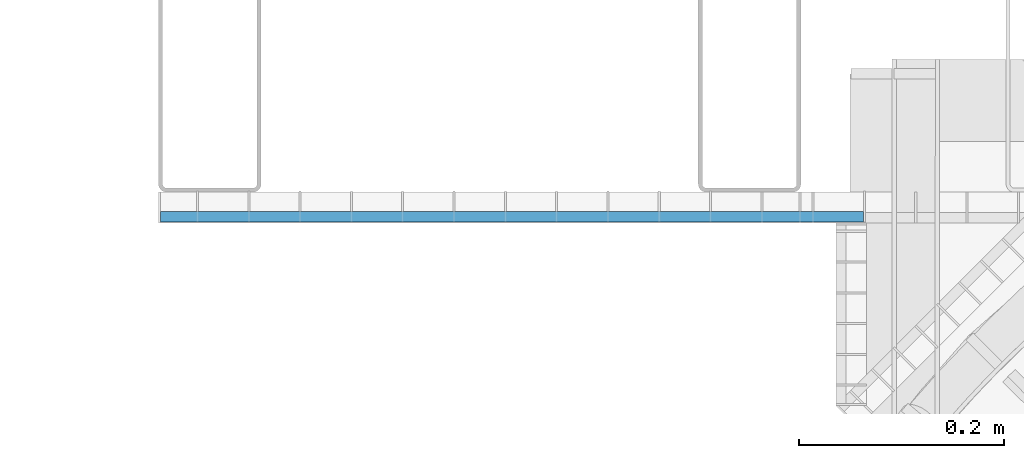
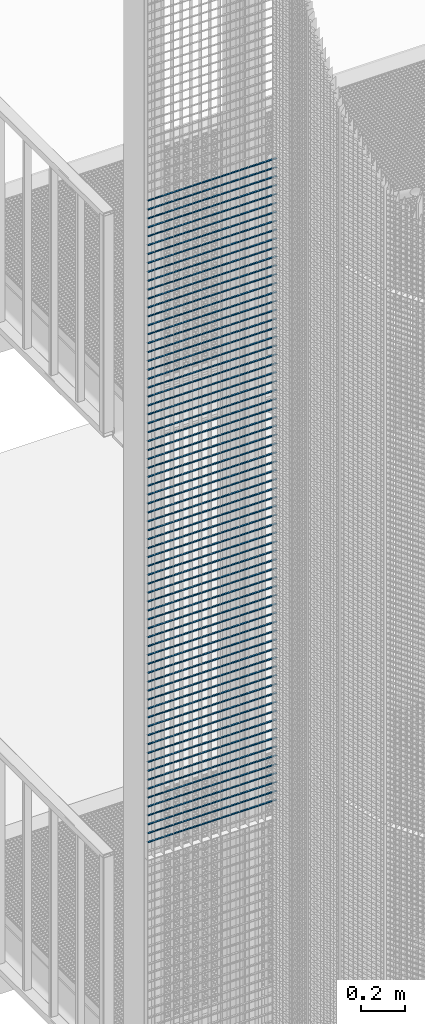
# One storey, part 207 of 1148: 73 beams, 1 element without a shape of its own.
"""IFC2X3 building model written with IfcOpenShell, lengths in millimetres."""

from ifc_helpers import new_model, si_unit, frame, origin_with_axes, origin_2d_with_axis, place, context, subcontext, project, spatial, rectangle, extrude, material, type_object, element, aggregate, save


model = new_model("IFC2X3")

# Units and contexts
model_context = context("Model", 3, precision=1e-05, world=origin_with_axes())
body_context = subcontext(model_context, "Body", "Model", "MODEL_VIEW")
ifc_project = project(units=[si_unit("LENGTHUNIT", "METRE", prefix="MILLI"), si_unit("AREAUNIT", "SQUARE_METRE"), si_unit("VOLUMEUNIT", "CUBIC_METRE"), si_unit("MASSUNIT", "GRAM", prefix="KILO"), si_unit("TIMEUNIT", "SECOND"), si_unit("PLANEANGLEUNIT", "RADIAN"), si_unit("SOLIDANGLEUNIT", "STERADIAN"), si_unit("THERMODYNAMICTEMPERATUREUNIT", "DEGREE_CELSIUS"), si_unit("LUMINOUSINTENSITYUNIT", "LUMEN")], contexts=[model_context])

# Site, building, storey
site_placement = place(None, origin_with_axes())
site = spatial("IfcSite", under=ifc_project, at=site_placement, Name="Undefined", CompositionType="ELEMENT")
building_placement = place(site_placement, origin_with_axes())
building = spatial("IfcBuilding", under=site, at=building_placement, Name="Undefined", CompositionType="ELEMENT")
storey_placement = place(building_placement, origin_with_axes())
storey = spatial("IfcBuildingStorey", under=building, at=storey_placement, Name="Undefined", CompositionType="ELEMENT", Elevation=0.0)

# Assembly, beams
assembly_placement = place(storey_placement, origin_with_axes())
assembly = element("IfcElementAssembly", 1, at=assembly_placement, inside=storey, Name="BORDURE", AssemblyPlace="NOTDEFINED", PredefinedType="NOTDEFINED")
ifc_material = material(Name="STEEL/S235JR")
beam_type = type_object("IfcBeamType", Name="PL2*10", PredefinedType="NOTDEFINED")
beam_1_placement = place(assembly_placement, frame((-1547.92041016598, 875.994689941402, 14889.998), z_axis=(0.0, -1.0, 0.0), x_axis=(1.0, 0.0, 0.0)))
beam_1 = element("IfcBeam", 2, at=beam_1_placement, type_object=beam_type, material=ifc_material, Name="ENTRETOISE", context=body_context, shape_type="SweptSolid", body=[
    extrude(rectangle(XDim=2.0, YDim=10.0, at=origin_2d_with_axis()), frame((685.0, 0.0, 0.0), z_axis=(-1.0, 0.0, 0.0), x_axis=(0.0, -1.0, 0.0)), (0.0, 0.0, 1.0), 685.0),
])
beam_2_placement = place(assembly_placement, frame((-1547.92041016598, 875.994689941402, 14839.998), z_axis=(0.0, -1.0, 0.0), x_axis=(1.0, 0.0, 0.0)))
beam_2 = element("IfcBeam", 3, at=beam_2_placement, type_object=beam_type, material=ifc_material, Name="ENTRETOISE", context=body_context, shape_type="SweptSolid", body=[
    extrude(rectangle(XDim=2.0, YDim=10.0, at=origin_2d_with_axis()), frame((685.0, 0.0, 0.0), z_axis=(-1.0, 0.0, 0.0), x_axis=(0.0, -1.0, 0.0)), (0.0, 0.0, 1.0), 685.0),
])
beam_3_placement = place(assembly_placement, frame((-1547.92041016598, 875.994689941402, 14789.998), z_axis=(0.0, -1.0, 0.0), x_axis=(1.0, 0.0, 0.0)))
beam_3 = element("IfcBeam", 4, at=beam_3_placement, type_object=beam_type, material=ifc_material, Name="ENTRETOISE", context=body_context, shape_type="SweptSolid", body=[
    extrude(rectangle(XDim=2.0, YDim=10.0, at=origin_2d_with_axis()), frame((685.0, 0.0, 0.0), z_axis=(-1.0, 0.0, 0.0), x_axis=(0.0, -1.0, 0.0)), (0.0, 0.0, 1.0), 685.0),
])
beam_4_placement = place(assembly_placement, frame((-1547.92041016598, 875.994689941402, 14739.998), z_axis=(0.0, -1.0, 0.0), x_axis=(1.0, 0.0, 0.0)))
beam_4 = element("IfcBeam", 5, at=beam_4_placement, type_object=beam_type, material=ifc_material, Name="ENTRETOISE", context=body_context, shape_type="SweptSolid", body=[
    extrude(rectangle(XDim=2.0, YDim=10.0, at=origin_2d_with_axis()), frame((685.0, 0.0, 0.0), z_axis=(-1.0, 0.0, 0.0), x_axis=(0.0, -1.0, 0.0)), (0.0, 0.0, 1.0), 685.0),
])
beam_5_placement = place(assembly_placement, frame((-1547.92041016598, 875.994689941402, 14689.998), z_axis=(0.0, -1.0, 0.0), x_axis=(1.0, 0.0, 0.0)))
beam_5 = element("IfcBeam", 6, at=beam_5_placement, type_object=beam_type, material=ifc_material, Name="ENTRETOISE", context=body_context, shape_type="SweptSolid", body=[
    extrude(rectangle(XDim=2.0, YDim=10.0, at=origin_2d_with_axis()), frame((685.0, 0.0, 0.0), z_axis=(-1.0, 0.0, 0.0), x_axis=(0.0, -1.0, 0.0)), (0.0, 0.0, 1.0), 685.0),
])
beam_6_placement = place(assembly_placement, frame((-1547.92041016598, 875.994689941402, 14639.998), z_axis=(0.0, -1.0, 0.0), x_axis=(1.0, 0.0, 0.0)))
beam_6 = element("IfcBeam", 7, at=beam_6_placement, type_object=beam_type, material=ifc_material, Name="ENTRETOISE", context=body_context, shape_type="SweptSolid", body=[
    extrude(rectangle(XDim=2.0, YDim=10.0, at=origin_2d_with_axis()), frame((685.0, 0.0, 0.0), z_axis=(-1.0, 0.0, 0.0), x_axis=(0.0, -1.0, 0.0)), (0.0, 0.0, 1.0), 685.0),
])
beam_7_placement = place(assembly_placement, frame((-1547.92041016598, 875.994689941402, 14589.998), z_axis=(0.0, -1.0, 0.0), x_axis=(1.0, 0.0, 0.0)))
beam_7 = element("IfcBeam", 8, at=beam_7_placement, type_object=beam_type, material=ifc_material, Name="ENTRETOISE", context=body_context, shape_type="SweptSolid", body=[
    extrude(rectangle(XDim=2.0, YDim=10.0, at=origin_2d_with_axis()), frame((685.0, 0.0, 0.0), z_axis=(-1.0, 0.0, 0.0), x_axis=(0.0, -1.0, 0.0)), (0.0, 0.0, 1.0), 685.0),
])
beam_8_placement = place(assembly_placement, frame((-1547.92041016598, 875.994689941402, 14539.998), z_axis=(0.0, -1.0, 0.0), x_axis=(1.0, 0.0, 0.0)))
beam_8 = element("IfcBeam", 9, at=beam_8_placement, type_object=beam_type, material=ifc_material, Name="ENTRETOISE", context=body_context, shape_type="SweptSolid", body=[
    extrude(rectangle(XDim=2.0, YDim=10.0, at=origin_2d_with_axis()), frame((685.0, 0.0, 0.0), z_axis=(-1.0, 0.0, 0.0), x_axis=(0.0, -1.0, 0.0)), (0.0, 0.0, 1.0), 685.0),
])
beam_9_placement = place(assembly_placement, frame((-1547.92041016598, 875.994689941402, 14489.998), z_axis=(0.0, -1.0, 0.0), x_axis=(1.0, 0.0, 0.0)))
beam_9 = element("IfcBeam", 10, at=beam_9_placement, type_object=beam_type, material=ifc_material, Name="ENTRETOISE", context=body_context, shape_type="SweptSolid", body=[
    extrude(rectangle(XDim=2.0, YDim=10.0, at=origin_2d_with_axis()), frame((685.0, 0.0, 0.0), z_axis=(-1.0, 0.0, 0.0), x_axis=(0.0, -1.0, 0.0)), (0.0, 0.0, 1.0), 685.0),
])
beam_10_placement = place(assembly_placement, frame((-1547.92041016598, 875.994689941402, 14439.998), z_axis=(0.0, -1.0, 0.0), x_axis=(1.0, 0.0, 0.0)))
beam_10 = element("IfcBeam", 11, at=beam_10_placement, type_object=beam_type, material=ifc_material, Name="ENTRETOISE", context=body_context, shape_type="SweptSolid", body=[
    extrude(rectangle(XDim=2.0, YDim=10.0, at=origin_2d_with_axis()), frame((685.0, 0.0, 0.0), z_axis=(-1.0, 0.0, 0.0), x_axis=(0.0, -1.0, 0.0)), (0.0, 0.0, 1.0), 685.0),
])
beam_11_placement = place(assembly_placement, frame((-1547.92041016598, 875.994689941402, 14389.998), z_axis=(0.0, -1.0, 0.0), x_axis=(1.0, 0.0, 0.0)))
beam_11 = element("IfcBeam", 12, at=beam_11_placement, type_object=beam_type, material=ifc_material, Name="ENTRETOISE", context=body_context, shape_type="SweptSolid", body=[
    extrude(rectangle(XDim=2.0, YDim=10.0, at=origin_2d_with_axis()), frame((685.0, 0.0, 0.0), z_axis=(-1.0, 0.0, 0.0), x_axis=(0.0, -1.0, 0.0)), (0.0, 0.0, 1.0), 685.0),
])
beam_12_placement = place(assembly_placement, frame((-1547.92041016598, 875.994689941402, 14339.998), z_axis=(0.0, -1.0, 0.0), x_axis=(1.0, 0.0, 0.0)))
beam_12 = element("IfcBeam", 13, at=beam_12_placement, type_object=beam_type, material=ifc_material, Name="ENTRETOISE", context=body_context, shape_type="SweptSolid", body=[
    extrude(rectangle(XDim=2.0, YDim=10.0, at=origin_2d_with_axis()), frame((685.0, 0.0, 0.0), z_axis=(-1.0, 0.0, 0.0), x_axis=(0.0, -1.0, 0.0)), (0.0, 0.0, 1.0), 685.0),
])
beam_13_placement = place(assembly_placement, frame((-1547.92041016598, 875.994689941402, 14289.998), z_axis=(0.0, -1.0, 0.0), x_axis=(1.0, 0.0, 0.0)))
beam_13 = element("IfcBeam", 14, at=beam_13_placement, type_object=beam_type, material=ifc_material, Name="ENTRETOISE", context=body_context, shape_type="SweptSolid", body=[
    extrude(rectangle(XDim=2.0, YDim=10.0, at=origin_2d_with_axis()), frame((685.0, 0.0, 0.0), z_axis=(-1.0, 0.0, 0.0), x_axis=(0.0, -1.0, 0.0)), (0.0, 0.0, 1.0), 685.0),
])
beam_14_placement = place(assembly_placement, frame((-1547.92041016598, 875.994689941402, 14239.998), z_axis=(0.0, -1.0, 0.0), x_axis=(1.0, 0.0, 0.0)))
beam_14 = element("IfcBeam", 15, at=beam_14_placement, type_object=beam_type, material=ifc_material, Name="ENTRETOISE", context=body_context, shape_type="SweptSolid", body=[
    extrude(rectangle(XDim=2.0, YDim=10.0, at=origin_2d_with_axis()), frame((685.0, 0.0, 0.0), z_axis=(-1.0, 0.0, 0.0), x_axis=(0.0, -1.0, 0.0)), (0.0, 0.0, 1.0), 685.0),
])
beam_15_placement = place(assembly_placement, frame((-1547.92041016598, 875.994689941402, 14189.998), z_axis=(0.0, -1.0, 0.0), x_axis=(1.0, 0.0, 0.0)))
beam_15 = element("IfcBeam", 16, at=beam_15_placement, type_object=beam_type, material=ifc_material, Name="ENTRETOISE", context=body_context, shape_type="SweptSolid", body=[
    extrude(rectangle(XDim=2.0, YDim=10.0, at=origin_2d_with_axis()), frame((685.0, 0.0, 0.0), z_axis=(-1.0, 0.0, 0.0), x_axis=(0.0, -1.0, 0.0)), (0.0, 0.0, 1.0), 685.0),
])
beam_16_placement = place(assembly_placement, frame((-1547.92041016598, 875.994689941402, 14139.998), z_axis=(0.0, -1.0, 0.0), x_axis=(1.0, 0.0, 0.0)))
beam_16 = element("IfcBeam", 17, at=beam_16_placement, type_object=beam_type, material=ifc_material, Name="ENTRETOISE", context=body_context, shape_type="SweptSolid", body=[
    extrude(rectangle(XDim=2.0, YDim=10.0, at=origin_2d_with_axis()), frame((685.0, 0.0, 0.0), z_axis=(-1.0, 0.0, 0.0), x_axis=(0.0, -1.0, 0.0)), (0.0, 0.0, 1.0), 685.0),
])
beam_17_placement = place(assembly_placement, frame((-1547.92041016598, 875.994689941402, 14089.998), z_axis=(0.0, -1.0, 0.0), x_axis=(1.0, 0.0, 0.0)))
beam_17 = element("IfcBeam", 18, at=beam_17_placement, type_object=beam_type, material=ifc_material, Name="ENTRETOISE", context=body_context, shape_type="SweptSolid", body=[
    extrude(rectangle(XDim=2.0, YDim=10.0, at=origin_2d_with_axis()), frame((685.0, 0.0, 0.0), z_axis=(-1.0, 0.0, 0.0), x_axis=(0.0, -1.0, 0.0)), (0.0, 0.0, 1.0), 685.0),
])
beam_18_placement = place(assembly_placement, frame((-1547.92041016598, 875.994689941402, 14039.998), z_axis=(0.0, -1.0, 0.0), x_axis=(1.0, 0.0, 0.0)))
beam_18 = element("IfcBeam", 19, at=beam_18_placement, type_object=beam_type, material=ifc_material, Name="ENTRETOISE", context=body_context, shape_type="SweptSolid", body=[
    extrude(rectangle(XDim=2.0, YDim=10.0, at=origin_2d_with_axis()), frame((685.0, 0.0, 0.0), z_axis=(-1.0, 0.0, 0.0), x_axis=(0.0, -1.0, 0.0)), (0.0, 0.0, 1.0), 685.0),
])
beam_19_placement = place(assembly_placement, frame((-1547.92041016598, 875.994689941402, 13989.998), z_axis=(0.0, -1.0, 0.0), x_axis=(1.0, 0.0, 0.0)))
beam_19 = element("IfcBeam", 20, at=beam_19_placement, type_object=beam_type, material=ifc_material, Name="ENTRETOISE", context=body_context, shape_type="SweptSolid", body=[
    extrude(rectangle(XDim=2.0, YDim=10.0, at=origin_2d_with_axis()), frame((685.0, 0.0, 0.0), z_axis=(-1.0, 0.0, 0.0), x_axis=(0.0, -1.0, 0.0)), (0.0, 0.0, 1.0), 685.0),
])
beam_20_placement = place(assembly_placement, frame((-1547.92041016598, 875.994689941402, 13939.998), z_axis=(0.0, -1.0, 0.0), x_axis=(1.0, 0.0, 0.0)))
beam_20 = element("IfcBeam", 21, at=beam_20_placement, type_object=beam_type, material=ifc_material, Name="ENTRETOISE", context=body_context, shape_type="SweptSolid", body=[
    extrude(rectangle(XDim=2.0, YDim=10.0, at=origin_2d_with_axis()), frame((685.0, 0.0, 0.0), z_axis=(-1.0, 0.0, 0.0), x_axis=(0.0, -1.0, 0.0)), (0.0, 0.0, 1.0), 685.0),
])
beam_21_placement = place(assembly_placement, frame((-1547.92041016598, 875.994689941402, 13889.998), z_axis=(0.0, -1.0, 0.0), x_axis=(1.0, 0.0, 0.0)))
beam_21 = element("IfcBeam", 22, at=beam_21_placement, type_object=beam_type, material=ifc_material, Name="ENTRETOISE", context=body_context, shape_type="SweptSolid", body=[
    extrude(rectangle(XDim=2.0, YDim=10.0, at=origin_2d_with_axis()), frame((685.0, 0.0, 0.0), z_axis=(-1.0, 0.0, 0.0), x_axis=(0.0, -1.0, 0.0)), (0.0, 0.0, 1.0), 685.0),
])
beam_22_placement = place(assembly_placement, frame((-1547.92041016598, 875.994689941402, 13839.998), z_axis=(0.0, -1.0, 0.0), x_axis=(1.0, 0.0, 0.0)))
beam_22 = element("IfcBeam", 23, at=beam_22_placement, type_object=beam_type, material=ifc_material, Name="ENTRETOISE", context=body_context, shape_type="SweptSolid", body=[
    extrude(rectangle(XDim=2.0, YDim=10.0, at=origin_2d_with_axis()), frame((685.0, 0.0, 0.0), z_axis=(-1.0, 0.0, 0.0), x_axis=(0.0, -1.0, 0.0)), (0.0, 0.0, 1.0), 685.0),
])
beam_23_placement = place(assembly_placement, frame((-1547.92041016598, 875.994689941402, 13789.998), z_axis=(0.0, -1.0, 0.0), x_axis=(1.0, 0.0, 0.0)))
beam_23 = element("IfcBeam", 24, at=beam_23_placement, type_object=beam_type, material=ifc_material, Name="ENTRETOISE", context=body_context, shape_type="SweptSolid", body=[
    extrude(rectangle(XDim=2.0, YDim=10.0, at=origin_2d_with_axis()), frame((685.0, 0.0, 0.0), z_axis=(-1.0, 0.0, 0.0), x_axis=(0.0, -1.0, 0.0)), (0.0, 0.0, 1.0), 685.0),
])
beam_24_placement = place(assembly_placement, frame((-1547.92041016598, 875.994689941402, 13739.998), z_axis=(0.0, -1.0, 0.0), x_axis=(1.0, 0.0, 0.0)))
beam_24 = element("IfcBeam", 25, at=beam_24_placement, type_object=beam_type, material=ifc_material, Name="ENTRETOISE", context=body_context, shape_type="SweptSolid", body=[
    extrude(rectangle(XDim=2.0, YDim=10.0, at=origin_2d_with_axis()), frame((685.0, 0.0, 0.0), z_axis=(-1.0, 0.0, 0.0), x_axis=(0.0, -1.0, 0.0)), (0.0, 0.0, 1.0), 685.0),
])
beam_25_placement = place(assembly_placement, frame((-1547.92041016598, 875.994689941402, 13689.998), z_axis=(0.0, -1.0, 0.0), x_axis=(1.0, 0.0, 0.0)))
beam_25 = element("IfcBeam", 26, at=beam_25_placement, type_object=beam_type, material=ifc_material, Name="ENTRETOISE", context=body_context, shape_type="SweptSolid", body=[
    extrude(rectangle(XDim=2.0, YDim=10.0, at=origin_2d_with_axis()), frame((685.0, 0.0, 0.0), z_axis=(-1.0, 0.0, 0.0), x_axis=(0.0, -1.0, 0.0)), (0.0, 0.0, 1.0), 685.0),
])
beam_26_placement = place(assembly_placement, frame((-1547.92041016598, 875.994689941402, 13639.998), z_axis=(0.0, -1.0, 0.0), x_axis=(1.0, 0.0, 0.0)))
beam_26 = element("IfcBeam", 27, at=beam_26_placement, type_object=beam_type, material=ifc_material, Name="ENTRETOISE", context=body_context, shape_type="SweptSolid", body=[
    extrude(rectangle(XDim=2.0, YDim=10.0, at=origin_2d_with_axis()), frame((685.0, 0.0, 0.0), z_axis=(-1.0, 0.0, 0.0), x_axis=(0.0, -1.0, 0.0)), (0.0, 0.0, 1.0), 685.0),
])
beam_27_placement = place(assembly_placement, frame((-1547.92041016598, 875.994689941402, 13589.998), z_axis=(0.0, -1.0, 0.0), x_axis=(1.0, 0.0, 0.0)))
beam_27 = element("IfcBeam", 28, at=beam_27_placement, type_object=beam_type, material=ifc_material, Name="ENTRETOISE", context=body_context, shape_type="SweptSolid", body=[
    extrude(rectangle(XDim=2.0, YDim=10.0, at=origin_2d_with_axis()), frame((685.0, 0.0, 0.0), z_axis=(-1.0, 0.0, 0.0), x_axis=(0.0, -1.0, 0.0)), (0.0, 0.0, 1.0), 685.0),
])
beam_28_placement = place(assembly_placement, frame((-1547.92041016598, 875.994689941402, 13539.998), z_axis=(0.0, -1.0, 0.0), x_axis=(1.0, 0.0, 0.0)))
beam_28 = element("IfcBeam", 29, at=beam_28_placement, type_object=beam_type, material=ifc_material, Name="ENTRETOISE", context=body_context, shape_type="SweptSolid", body=[
    extrude(rectangle(XDim=2.0, YDim=10.0, at=origin_2d_with_axis()), frame((685.0, 0.0, 0.0), z_axis=(-1.0, 0.0, 0.0), x_axis=(0.0, -1.0, 0.0)), (0.0, 0.0, 1.0), 685.0),
])
beam_29_placement = place(assembly_placement, frame((-1547.92041016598, 875.994689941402, 13489.998), z_axis=(0.0, -1.0, 0.0), x_axis=(1.0, 0.0, 0.0)))
beam_29 = element("IfcBeam", 30, at=beam_29_placement, type_object=beam_type, material=ifc_material, Name="ENTRETOISE", context=body_context, shape_type="SweptSolid", body=[
    extrude(rectangle(XDim=2.0, YDim=10.0, at=origin_2d_with_axis()), frame((685.0, 0.0, 0.0), z_axis=(-1.0, 0.0, 0.0), x_axis=(0.0, -1.0, 0.0)), (0.0, 0.0, 1.0), 685.0),
])
beam_30_placement = place(assembly_placement, frame((-1547.92041016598, 875.994689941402, 13439.998), z_axis=(0.0, -1.0, 0.0), x_axis=(1.0, 0.0, 0.0)))
beam_30 = element("IfcBeam", 31, at=beam_30_placement, type_object=beam_type, material=ifc_material, Name="ENTRETOISE", context=body_context, shape_type="SweptSolid", body=[
    extrude(rectangle(XDim=2.0, YDim=10.0, at=origin_2d_with_axis()), frame((685.0, 0.0, 0.0), z_axis=(-1.0, 0.0, 0.0), x_axis=(0.0, -1.0, 0.0)), (0.0, 0.0, 1.0), 685.0),
])
beam_31_placement = place(assembly_placement, frame((-1547.92041016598, 875.994689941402, 13389.998), z_axis=(0.0, -1.0, 0.0), x_axis=(1.0, 0.0, 0.0)))
beam_31 = element("IfcBeam", 32, at=beam_31_placement, type_object=beam_type, material=ifc_material, Name="ENTRETOISE", context=body_context, shape_type="SweptSolid", body=[
    extrude(rectangle(XDim=2.0, YDim=10.0, at=origin_2d_with_axis()), frame((685.0, 0.0, 0.0), z_axis=(-1.0, 0.0, 0.0), x_axis=(0.0, -1.0, 0.0)), (0.0, 0.0, 1.0), 685.0),
])
beam_32_placement = place(assembly_placement, frame((-1547.92041016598, 875.994689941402, 13339.998), z_axis=(0.0, -1.0, 0.0), x_axis=(1.0, 0.0, 0.0)))
beam_32 = element("IfcBeam", 33, at=beam_32_placement, type_object=beam_type, material=ifc_material, Name="ENTRETOISE", context=body_context, shape_type="SweptSolid", body=[
    extrude(rectangle(XDim=2.0, YDim=10.0, at=origin_2d_with_axis()), frame((685.0, 0.0, 0.0), z_axis=(-1.0, 0.0, 0.0), x_axis=(0.0, -1.0, 0.0)), (0.0, 0.0, 1.0), 685.0),
])
beam_33_placement = place(assembly_placement, frame((-1547.92041016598, 875.994689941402, 13289.998), z_axis=(0.0, -1.0, 0.0), x_axis=(1.0, 0.0, 0.0)))
beam_33 = element("IfcBeam", 34, at=beam_33_placement, type_object=beam_type, material=ifc_material, Name="ENTRETOISE", context=body_context, shape_type="SweptSolid", body=[
    extrude(rectangle(XDim=2.0, YDim=10.0, at=origin_2d_with_axis()), frame((685.0, 0.0, 0.0), z_axis=(-1.0, 0.0, 0.0), x_axis=(0.0, -1.0, 0.0)), (0.0, 0.0, 1.0), 685.0),
])
beam_34_placement = place(assembly_placement, frame((-1547.92041016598, 875.994689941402, 13239.998), z_axis=(0.0, -1.0, 0.0), x_axis=(1.0, 0.0, 0.0)))
beam_34 = element("IfcBeam", 35, at=beam_34_placement, type_object=beam_type, material=ifc_material, Name="ENTRETOISE", context=body_context, shape_type="SweptSolid", body=[
    extrude(rectangle(XDim=2.0, YDim=10.0, at=origin_2d_with_axis()), frame((685.0, 0.0, 0.0), z_axis=(-1.0, 0.0, 0.0), x_axis=(0.0, -1.0, 0.0)), (0.0, 0.0, 1.0), 685.0),
])
beam_35_placement = place(assembly_placement, frame((-1547.92041016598, 875.994689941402, 13189.998), z_axis=(0.0, -1.0, 0.0), x_axis=(1.0, 0.0, 0.0)))
beam_35 = element("IfcBeam", 36, at=beam_35_placement, type_object=beam_type, material=ifc_material, Name="ENTRETOISE", context=body_context, shape_type="SweptSolid", body=[
    extrude(rectangle(XDim=2.0, YDim=10.0, at=origin_2d_with_axis()), frame((685.0, 0.0, 0.0), z_axis=(-1.0, 0.0, 0.0), x_axis=(0.0, -1.0, 0.0)), (0.0, 0.0, 1.0), 685.0),
])
beam_36_placement = place(assembly_placement, frame((-1547.92041016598, 875.994689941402, 13139.998), z_axis=(0.0, -1.0, 0.0), x_axis=(1.0, 0.0, 0.0)))
beam_36 = element("IfcBeam", 37, at=beam_36_placement, type_object=beam_type, material=ifc_material, Name="ENTRETOISE", context=body_context, shape_type="SweptSolid", body=[
    extrude(rectangle(XDim=2.0, YDim=10.0, at=origin_2d_with_axis()), frame((685.0, 0.0, 0.0), z_axis=(-1.0, 0.0, 0.0), x_axis=(0.0, -1.0, 0.0)), (0.0, 0.0, 1.0), 685.0),
])
beam_37_placement = place(assembly_placement, frame((-1547.92041016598, 875.994689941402, 13089.998), z_axis=(0.0, -1.0, 0.0), x_axis=(1.0, 0.0, 0.0)))
beam_37 = element("IfcBeam", 38, at=beam_37_placement, type_object=beam_type, material=ifc_material, Name="ENTRETOISE", context=body_context, shape_type="SweptSolid", body=[
    extrude(rectangle(XDim=2.0, YDim=10.0, at=origin_2d_with_axis()), frame((685.0, 0.0, 0.0), z_axis=(-1.0, 0.0, 0.0), x_axis=(0.0, -1.0, 0.0)), (0.0, 0.0, 1.0), 685.0),
])
beam_38_placement = place(assembly_placement, frame((-1547.92041016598, 875.994689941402, 11939.998), z_axis=(0.0, -1.0, 0.0), x_axis=(1.0, 0.0, 0.0)))
beam_38 = element("IfcBeam", 39, at=beam_38_placement, type_object=beam_type, material=ifc_material, Name="ENTRETOISE", context=body_context, shape_type="SweptSolid", body=[
    extrude(rectangle(XDim=2.0, YDim=10.0, at=origin_2d_with_axis()), frame((685.0, 0.0, 0.0), z_axis=(-1.0, 0.0, 0.0), x_axis=(0.0, -1.0, 0.0)), (0.0, 0.0, 1.0), 685.0),
])
beam_39_placement = place(assembly_placement, frame((-1547.92041016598, 875.994689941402, 11989.998), z_axis=(0.0, -1.0, 0.0), x_axis=(1.0, 0.0, 0.0)))
beam_39 = element("IfcBeam", 40, at=beam_39_placement, type_object=beam_type, material=ifc_material, Name="ENTRETOISE", context=body_context, shape_type="SweptSolid", body=[
    extrude(rectangle(XDim=2.0, YDim=10.0, at=origin_2d_with_axis()), frame((685.0, 0.0, 0.0), z_axis=(-1.0, 0.0, 0.0), x_axis=(0.0, -1.0, 0.0)), (0.0, 0.0, 1.0), 685.0),
])
beam_40_placement = place(assembly_placement, frame((-1547.92041016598, 875.994689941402, 11889.998), z_axis=(0.0, -1.0, 0.0), x_axis=(1.0, 0.0, 0.0)))
beam_40 = element("IfcBeam", 41, at=beam_40_placement, type_object=beam_type, material=ifc_material, Name="ENTRETOISE", context=body_context, shape_type="SweptSolid", body=[
    extrude(rectangle(XDim=2.0, YDim=10.0, at=origin_2d_with_axis()), frame((685.0, 0.0, 0.0), z_axis=(-1.0, 0.0, 0.0), x_axis=(0.0, -1.0, 0.0)), (0.0, 0.0, 1.0), 685.0),
])
beam_41_placement = place(assembly_placement, frame((-1547.92041016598, 875.994689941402, 12039.998), z_axis=(0.0, -1.0, 0.0), x_axis=(1.0, 0.0, 0.0)))
beam_41 = element("IfcBeam", 42, at=beam_41_placement, type_object=beam_type, material=ifc_material, Name="ENTRETOISE", context=body_context, shape_type="SweptSolid", body=[
    extrude(rectangle(XDim=2.0, YDim=10.0, at=origin_2d_with_axis()), frame((685.0, 0.0, 0.0), z_axis=(-1.0, 0.0, 0.0), x_axis=(0.0, -1.0, 0.0)), (0.0, 0.0, 1.0), 685.0),
])
beam_42_placement = place(assembly_placement, frame((-1547.92041016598, 875.994689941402, 11839.998), z_axis=(0.0, -1.0, 0.0), x_axis=(1.0, 0.0, 0.0)))
beam_42 = element("IfcBeam", 43, at=beam_42_placement, type_object=beam_type, material=ifc_material, Name="ENTRETOISE", context=body_context, shape_type="SweptSolid", body=[
    extrude(rectangle(XDim=2.0, YDim=10.0, at=origin_2d_with_axis()), frame((685.0, 0.0, 0.0), z_axis=(-1.0, 0.0, 0.0), x_axis=(0.0, -1.0, 0.0)), (0.0, 0.0, 1.0), 685.0),
])
beam_43_placement = place(assembly_placement, frame((-1547.92041016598, 875.994689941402, 12089.998), z_axis=(0.0, -1.0, 0.0), x_axis=(1.0, 0.0, 0.0)))
beam_43 = element("IfcBeam", 44, at=beam_43_placement, type_object=beam_type, material=ifc_material, Name="ENTRETOISE", context=body_context, shape_type="SweptSolid", body=[
    extrude(rectangle(XDim=2.0, YDim=10.0, at=origin_2d_with_axis()), frame((685.0, 0.0, 0.0), z_axis=(-1.0, 0.0, 0.0), x_axis=(0.0, -1.0, 0.0)), (0.0, 0.0, 1.0), 685.0),
])
beam_44_placement = place(assembly_placement, frame((-1547.92041016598, 875.994689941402, 12139.998), z_axis=(0.0, -1.0, 0.0), x_axis=(1.0, 0.0, 0.0)))
beam_44 = element("IfcBeam", 45, at=beam_44_placement, type_object=beam_type, material=ifc_material, Name="ENTRETOISE", context=body_context, shape_type="SweptSolid", body=[
    extrude(rectangle(XDim=2.0, YDim=10.0, at=origin_2d_with_axis()), frame((685.0, 0.0, 0.0), z_axis=(-1.0, 0.0, 0.0), x_axis=(0.0, -1.0, 0.0)), (0.0, 0.0, 1.0), 685.0),
])
beam_45_placement = place(assembly_placement, frame((-1547.92041016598, 875.994689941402, 11789.998), z_axis=(0.0, -1.0, 0.0), x_axis=(1.0, 0.0, 0.0)))
beam_45 = element("IfcBeam", 46, at=beam_45_placement, type_object=beam_type, material=ifc_material, Name="ENTRETOISE", context=body_context, shape_type="SweptSolid", body=[
    extrude(rectangle(XDim=2.0, YDim=10.0, at=origin_2d_with_axis()), frame((685.0, 0.0, 0.0), z_axis=(-1.0, 0.0, 0.0), x_axis=(0.0, -1.0, 0.0)), (0.0, 0.0, 1.0), 685.0),
])
beam_46_placement = place(assembly_placement, frame((-1547.92041016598, 875.994689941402, 12189.998), z_axis=(0.0, -1.0, 0.0), x_axis=(1.0, 0.0, 0.0)))
beam_46 = element("IfcBeam", 47, at=beam_46_placement, type_object=beam_type, material=ifc_material, Name="ENTRETOISE", context=body_context, shape_type="SweptSolid", body=[
    extrude(rectangle(XDim=2.0, YDim=10.0, at=origin_2d_with_axis()), frame((685.0, 0.0, 0.0), z_axis=(-1.0, 0.0, 0.0), x_axis=(0.0, -1.0, 0.0)), (0.0, 0.0, 1.0), 685.0),
])
beam_47_placement = place(assembly_placement, frame((-1547.92041016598, 875.994689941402, 12239.998), z_axis=(0.0, -1.0, 0.0), x_axis=(1.0, 0.0, 0.0)))
beam_47 = element("IfcBeam", 48, at=beam_47_placement, type_object=beam_type, material=ifc_material, Name="ENTRETOISE", context=body_context, shape_type="SweptSolid", body=[
    extrude(rectangle(XDim=2.0, YDim=10.0, at=origin_2d_with_axis()), frame((685.0, 0.0, 0.0), z_axis=(-1.0, 0.0, 0.0), x_axis=(0.0, -1.0, 0.0)), (0.0, 0.0, 1.0), 685.0),
])
beam_48_placement = place(assembly_placement, frame((-1547.92041016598, 875.994689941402, 11739.998), z_axis=(0.0, -1.0, 0.0), x_axis=(1.0, 0.0, 0.0)))
beam_48 = element("IfcBeam", 49, at=beam_48_placement, type_object=beam_type, material=ifc_material, Name="ENTRETOISE", context=body_context, shape_type="SweptSolid", body=[
    extrude(rectangle(XDim=2.0, YDim=10.0, at=origin_2d_with_axis()), frame((685.0, 0.0, 0.0), z_axis=(-1.0, 0.0, 0.0), x_axis=(0.0, -1.0, 0.0)), (0.0, 0.0, 1.0), 685.0),
])
beam_49_placement = place(assembly_placement, frame((-1547.92041016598, 875.994689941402, 12289.998), z_axis=(0.0, -1.0, 0.0), x_axis=(1.0, 0.0, 0.0)))
beam_49 = element("IfcBeam", 50, at=beam_49_placement, type_object=beam_type, material=ifc_material, Name="ENTRETOISE", context=body_context, shape_type="SweptSolid", body=[
    extrude(rectangle(XDim=2.0, YDim=10.0, at=origin_2d_with_axis()), frame((685.0, 0.0, 0.0), z_axis=(-1.0, 0.0, 0.0), x_axis=(0.0, -1.0, 0.0)), (0.0, 0.0, 1.0), 685.0),
])
beam_50_placement = place(assembly_placement, frame((-1547.92041016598, 875.994689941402, 11689.998), z_axis=(0.0, -1.0, 0.0), x_axis=(1.0, 0.0, 0.0)))
beam_50 = element("IfcBeam", 51, at=beam_50_placement, type_object=beam_type, material=ifc_material, Name="ENTRETOISE", context=body_context, shape_type="SweptSolid", body=[
    extrude(rectangle(XDim=2.0, YDim=10.0, at=origin_2d_with_axis()), frame((685.0, 0.0, 0.0), z_axis=(-1.0, 0.0, 0.0), x_axis=(0.0, -1.0, 0.0)), (0.0, 0.0, 1.0), 685.0),
])
beam_51_placement = place(assembly_placement, frame((-1547.92041016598, 875.994689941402, 12339.998), z_axis=(0.0, -1.0, 0.0), x_axis=(1.0, 0.0, 0.0)))
beam_51 = element("IfcBeam", 52, at=beam_51_placement, type_object=beam_type, material=ifc_material, Name="ENTRETOISE", context=body_context, shape_type="SweptSolid", body=[
    extrude(rectangle(XDim=2.0, YDim=10.0, at=origin_2d_with_axis()), frame((685.0, 0.0, 0.0), z_axis=(-1.0, 0.0, 0.0), x_axis=(0.0, -1.0, 0.0)), (0.0, 0.0, 1.0), 685.0),
])
beam_52_placement = place(assembly_placement, frame((-1547.92041016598, 875.994689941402, 12389.998), z_axis=(0.0, -1.0, 0.0), x_axis=(1.0, 0.0, 0.0)))
beam_52 = element("IfcBeam", 53, at=beam_52_placement, type_object=beam_type, material=ifc_material, Name="ENTRETOISE", context=body_context, shape_type="SweptSolid", body=[
    extrude(rectangle(XDim=2.0, YDim=10.0, at=origin_2d_with_axis()), frame((685.0, 0.0, 0.0), z_axis=(-1.0, 0.0, 0.0), x_axis=(0.0, -1.0, 0.0)), (0.0, 0.0, 1.0), 685.0),
])
beam_53_placement = place(assembly_placement, frame((-1547.92041016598, 875.994689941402, 11639.998), z_axis=(0.0, -1.0, 0.0), x_axis=(1.0, 0.0, 0.0)))
beam_53 = element("IfcBeam", 54, at=beam_53_placement, type_object=beam_type, material=ifc_material, Name="ENTRETOISE", context=body_context, shape_type="SweptSolid", body=[
    extrude(rectangle(XDim=2.0, YDim=10.0, at=origin_2d_with_axis()), frame((685.0, 0.0, 0.0), z_axis=(-1.0, 0.0, 0.0), x_axis=(0.0, -1.0, 0.0)), (0.0, 0.0, 1.0), 685.0),
])
beam_54_placement = place(assembly_placement, frame((-1547.92041016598, 875.994689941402, 12439.998), z_axis=(0.0, -1.0, 0.0), x_axis=(1.0, 0.0, 0.0)))
beam_54 = element("IfcBeam", 55, at=beam_54_placement, type_object=beam_type, material=ifc_material, Name="ENTRETOISE", context=body_context, shape_type="SweptSolid", body=[
    extrude(rectangle(XDim=2.0, YDim=10.0, at=origin_2d_with_axis()), frame((685.0, 0.0, 0.0), z_axis=(-1.0, 0.0, 0.0), x_axis=(0.0, -1.0, 0.0)), (0.0, 0.0, 1.0), 685.0),
])
beam_55_placement = place(assembly_placement, frame((-1547.92041016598, 875.994689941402, 12489.998), z_axis=(0.0, -1.0, 0.0), x_axis=(1.0, 0.0, 0.0)))
beam_55 = element("IfcBeam", 56, at=beam_55_placement, type_object=beam_type, material=ifc_material, Name="ENTRETOISE", context=body_context, shape_type="SweptSolid", body=[
    extrude(rectangle(XDim=2.0, YDim=10.0, at=origin_2d_with_axis()), frame((685.0, 0.0, 0.0), z_axis=(-1.0, 0.0, 0.0), x_axis=(0.0, -1.0, 0.0)), (0.0, 0.0, 1.0), 685.0),
])
beam_56_placement = place(assembly_placement, frame((-1547.92041016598, 875.994689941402, 11589.998), z_axis=(0.0, -1.0, 0.0), x_axis=(1.0, 0.0, 0.0)))
beam_56 = element("IfcBeam", 57, at=beam_56_placement, type_object=beam_type, material=ifc_material, Name="ENTRETOISE", context=body_context, shape_type="SweptSolid", body=[
    extrude(rectangle(XDim=2.0, YDim=10.0, at=origin_2d_with_axis()), frame((685.0, 0.0, 0.0), z_axis=(-1.0, 0.0, 0.0), x_axis=(0.0, -1.0, 0.0)), (0.0, 0.0, 1.0), 685.0),
])
beam_57_placement = place(assembly_placement, frame((-1547.92041016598, 875.994689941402, 12539.998), z_axis=(0.0, -1.0, 0.0), x_axis=(1.0, 0.0, 0.0)))
beam_57 = element("IfcBeam", 58, at=beam_57_placement, type_object=beam_type, material=ifc_material, Name="ENTRETOISE", context=body_context, shape_type="SweptSolid", body=[
    extrude(rectangle(XDim=2.0, YDim=10.0, at=origin_2d_with_axis()), frame((685.0, 0.0, 0.0), z_axis=(-1.0, 0.0, 0.0), x_axis=(0.0, -1.0, 0.0)), (0.0, 0.0, 1.0), 685.0),
])
beam_58_placement = place(assembly_placement, frame((-1547.92041016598, 875.994689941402, 11539.998), z_axis=(0.0, -1.0, 0.0), x_axis=(1.0, 0.0, 0.0)))
beam_58 = element("IfcBeam", 59, at=beam_58_placement, type_object=beam_type, material=ifc_material, Name="ENTRETOISE", context=body_context, shape_type="SweptSolid", body=[
    extrude(rectangle(XDim=2.0, YDim=10.0, at=origin_2d_with_axis()), frame((685.0, 0.0, 0.0), z_axis=(-1.0, 0.0, 0.0), x_axis=(0.0, -1.0, 0.0)), (0.0, 0.0, 1.0), 685.0),
])
beam_59_placement = place(assembly_placement, frame((-1547.92041016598, 875.994689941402, 12589.998), z_axis=(0.0, -1.0, 0.0), x_axis=(1.0, 0.0, 0.0)))
beam_59 = element("IfcBeam", 60, at=beam_59_placement, type_object=beam_type, material=ifc_material, Name="ENTRETOISE", context=body_context, shape_type="SweptSolid", body=[
    extrude(rectangle(XDim=2.0, YDim=10.0, at=origin_2d_with_axis()), frame((685.0, 0.0, 0.0), z_axis=(-1.0, 0.0, 0.0), x_axis=(0.0, -1.0, 0.0)), (0.0, 0.0, 1.0), 685.0),
])
beam_60_placement = place(assembly_placement, frame((-1547.92041016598, 875.994689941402, 12639.998), z_axis=(0.0, -1.0, 0.0), x_axis=(1.0, 0.0, 0.0)))
beam_60 = element("IfcBeam", 61, at=beam_60_placement, type_object=beam_type, material=ifc_material, Name="ENTRETOISE", context=body_context, shape_type="SweptSolid", body=[
    extrude(rectangle(XDim=2.0, YDim=10.0, at=origin_2d_with_axis()), frame((685.0, 0.0, 0.0), z_axis=(-1.0, 0.0, 0.0), x_axis=(0.0, -1.0, 0.0)), (0.0, 0.0, 1.0), 685.0),
])
beam_61_placement = place(assembly_placement, frame((-1547.92041016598, 875.994689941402, 11489.998), z_axis=(0.0, -1.0, 0.0), x_axis=(1.0, 0.0, 0.0)))
beam_61 = element("IfcBeam", 62, at=beam_61_placement, type_object=beam_type, material=ifc_material, Name="ENTRETOISE", context=body_context, shape_type="SweptSolid", body=[
    extrude(rectangle(XDim=2.0, YDim=10.0, at=origin_2d_with_axis()), frame((685.0, 0.0, 0.0), z_axis=(-1.0, 0.0, 0.0), x_axis=(0.0, -1.0, 0.0)), (0.0, 0.0, 1.0), 685.0),
])
beam_62_placement = place(assembly_placement, frame((-1547.92041016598, 875.994689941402, 12689.998), z_axis=(0.0, -1.0, 0.0), x_axis=(1.0, 0.0, 0.0)))
beam_62 = element("IfcBeam", 63, at=beam_62_placement, type_object=beam_type, material=ifc_material, Name="ENTRETOISE", context=body_context, shape_type="SweptSolid", body=[
    extrude(rectangle(XDim=2.0, YDim=10.0, at=origin_2d_with_axis()), frame((685.0, 0.0, 0.0), z_axis=(-1.0, 0.0, 0.0), x_axis=(0.0, -1.0, 0.0)), (0.0, 0.0, 1.0), 685.0),
])
beam_63_placement = place(assembly_placement, frame((-1547.92041016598, 875.994689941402, 11439.998), z_axis=(0.0, -1.0, 0.0), x_axis=(1.0, 0.0, 0.0)))
beam_63 = element("IfcBeam", 64, at=beam_63_placement, type_object=beam_type, material=ifc_material, Name="ENTRETOISE", context=body_context, shape_type="SweptSolid", body=[
    extrude(rectangle(XDim=2.0, YDim=10.0, at=origin_2d_with_axis()), frame((685.0, 0.0, 0.0), z_axis=(-1.0, 0.0, 0.0), x_axis=(0.0, -1.0, 0.0)), (0.0, 0.0, 1.0), 685.0),
])
beam_64_placement = place(assembly_placement, frame((-1547.92041016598, 875.994689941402, 12739.998), z_axis=(0.0, -1.0, 0.0), x_axis=(1.0, 0.0, 0.0)))
beam_64 = element("IfcBeam", 65, at=beam_64_placement, type_object=beam_type, material=ifc_material, Name="ENTRETOISE", context=body_context, shape_type="SweptSolid", body=[
    extrude(rectangle(XDim=2.0, YDim=10.0, at=origin_2d_with_axis()), frame((685.0, 0.0, 0.0), z_axis=(-1.0, 0.0, 0.0), x_axis=(0.0, -1.0, 0.0)), (0.0, 0.0, 1.0), 685.0),
])
beam_65_placement = place(assembly_placement, frame((-1547.92041016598, 875.994689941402, 12789.998), z_axis=(0.0, -1.0, 0.0), x_axis=(1.0, 0.0, 0.0)))
beam_65 = element("IfcBeam", 66, at=beam_65_placement, type_object=beam_type, material=ifc_material, Name="ENTRETOISE", context=body_context, shape_type="SweptSolid", body=[
    extrude(rectangle(XDim=2.0, YDim=10.0, at=origin_2d_with_axis()), frame((685.0, 0.0, 0.0), z_axis=(-1.0, 0.0, 0.0), x_axis=(0.0, -1.0, 0.0)), (0.0, 0.0, 1.0), 685.0),
])
beam_66_placement = place(assembly_placement, frame((-1547.92041016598, 875.994689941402, 11389.998), z_axis=(0.0, -1.0, 0.0), x_axis=(1.0, 0.0, 0.0)))
beam_66 = element("IfcBeam", 67, at=beam_66_placement, type_object=beam_type, material=ifc_material, Name="ENTRETOISE", context=body_context, shape_type="SweptSolid", body=[
    extrude(rectangle(XDim=2.0, YDim=10.0, at=origin_2d_with_axis()), frame((685.0, 0.0, 0.0), z_axis=(-1.0, 0.0, 0.0), x_axis=(0.0, -1.0, 0.0)), (0.0, 0.0, 1.0), 685.0),
])
beam_67_placement = place(assembly_placement, frame((-1547.92041016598, 875.994689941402, 12839.998), z_axis=(0.0, -1.0, 0.0), x_axis=(1.0, 0.0, 0.0)))
beam_67 = element("IfcBeam", 68, at=beam_67_placement, type_object=beam_type, material=ifc_material, Name="ENTRETOISE", context=body_context, shape_type="SweptSolid", body=[
    extrude(rectangle(XDim=2.0, YDim=10.0, at=origin_2d_with_axis()), frame((685.0, 0.0, 0.0), z_axis=(-1.0, 0.0, 0.0), x_axis=(0.0, -1.0, 0.0)), (0.0, 0.0, 1.0), 685.0),
])
beam_68_placement = place(assembly_placement, frame((-1547.92041016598, 875.994689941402, 12889.998), z_axis=(0.0, -1.0, 0.0), x_axis=(1.0, 0.0, 0.0)))
beam_68 = element("IfcBeam", 69, at=beam_68_placement, type_object=beam_type, material=ifc_material, Name="ENTRETOISE", context=body_context, shape_type="SweptSolid", body=[
    extrude(rectangle(XDim=2.0, YDim=10.0, at=origin_2d_with_axis()), frame((685.0, 0.0, 0.0), z_axis=(-1.0, 0.0, 0.0), x_axis=(0.0, -1.0, 0.0)), (0.0, 0.0, 1.0), 685.0),
])
beam_69_placement = place(assembly_placement, frame((-1547.92041016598, 875.994689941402, 11339.998), z_axis=(0.0, -1.0, 0.0), x_axis=(1.0, 0.0, 0.0)))
beam_69 = element("IfcBeam", 70, at=beam_69_placement, type_object=beam_type, material=ifc_material, Name="ENTRETOISE", context=body_context, shape_type="SweptSolid", body=[
    extrude(rectangle(XDim=2.0, YDim=10.0, at=origin_2d_with_axis()), frame((685.0, 0.0, 0.0), z_axis=(-1.0, 0.0, 0.0), x_axis=(0.0, -1.0, 0.0)), (0.0, 0.0, 1.0), 685.0),
])
beam_70_placement = place(assembly_placement, frame((-1547.92041016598, 875.994689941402, 12939.998), z_axis=(0.0, -1.0, 0.0), x_axis=(1.0, 0.0, 0.0)))
beam_70 = element("IfcBeam", 71, at=beam_70_placement, type_object=beam_type, material=ifc_material, Name="ENTRETOISE", context=body_context, shape_type="SweptSolid", body=[
    extrude(rectangle(XDim=2.0, YDim=10.0, at=origin_2d_with_axis()), frame((685.0, 0.0, 0.0), z_axis=(-1.0, 0.0, 0.0), x_axis=(0.0, -1.0, 0.0)), (0.0, 0.0, 1.0), 685.0),
])
beam_71_placement = place(assembly_placement, frame((-1547.92041016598, 875.994689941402, 11289.998), z_axis=(0.0, -1.0, 0.0), x_axis=(1.0, 0.0, 0.0)))
beam_71 = element("IfcBeam", 72, at=beam_71_placement, type_object=beam_type, material=ifc_material, Name="ENTRETOISE", context=body_context, shape_type="SweptSolid", body=[
    extrude(rectangle(XDim=2.0, YDim=10.0, at=origin_2d_with_axis()), frame((685.0, 0.0, 0.0), z_axis=(-1.0, 0.0, 0.0), x_axis=(0.0, -1.0, 0.0)), (0.0, 0.0, 1.0), 685.0),
])
beam_72_placement = place(assembly_placement, frame((-1547.92041016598, 875.994689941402, 12989.998), z_axis=(0.0, -1.0, 0.0), x_axis=(1.0, 0.0, 0.0)))
beam_72 = element("IfcBeam", 73, at=beam_72_placement, type_object=beam_type, material=ifc_material, Name="ENTRETOISE", context=body_context, shape_type="SweptSolid", body=[
    extrude(rectangle(XDim=2.0, YDim=10.0, at=origin_2d_with_axis()), frame((685.0, 0.0, 0.0), z_axis=(-1.0, 0.0, 0.0), x_axis=(0.0, -1.0, 0.0)), (0.0, 0.0, 1.0), 685.0),
])
beam_73_placement = place(assembly_placement, frame((-1547.92041016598, 875.994689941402, 13039.998), z_axis=(0.0, -1.0, 0.0), x_axis=(1.0, 0.0, 0.0)))
beam_73 = element("IfcBeam", 74, at=beam_73_placement, type_object=beam_type, material=ifc_material, Name="ENTRETOISE", context=body_context, shape_type="SweptSolid", body=[
    extrude(rectangle(XDim=2.0, YDim=10.0, at=origin_2d_with_axis()), frame((685.0, 0.0, 0.0), z_axis=(-1.0, 0.0, 0.0), x_axis=(0.0, -1.0, 0.0)), (0.0, 0.0, 1.0), 685.0),
])
aggregate(assembly, [beam_1, beam_2, beam_3, beam_4, beam_5, beam_6, beam_7, beam_8, beam_9, beam_10, beam_11, beam_12, beam_13, beam_14, beam_15, beam_16, beam_17, beam_18, beam_19, beam_20, beam_21, beam_22, beam_23, beam_24, beam_25, beam_26, beam_27, beam_28, beam_29, beam_30, beam_31, beam_32, beam_33, beam_34, beam_35, beam_36, beam_37, beam_38, beam_39, beam_40, beam_41, beam_42, beam_43, beam_44, beam_45, beam_46, beam_47, beam_48, beam_49, beam_50, beam_51, beam_52, beam_53, beam_54, beam_55, beam_56, beam_57, beam_58, beam_59, beam_60, beam_61, beam_62, beam_63, beam_64, beam_65, beam_66, beam_67, beam_68, beam_69, beam_70, beam_71, beam_72, beam_73])

save(model, "model.ifc")
